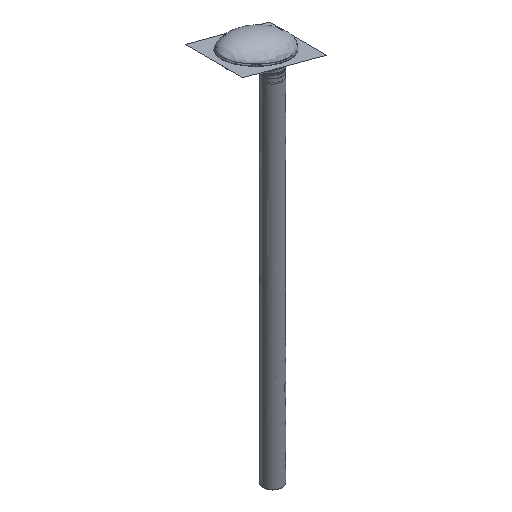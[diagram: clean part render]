
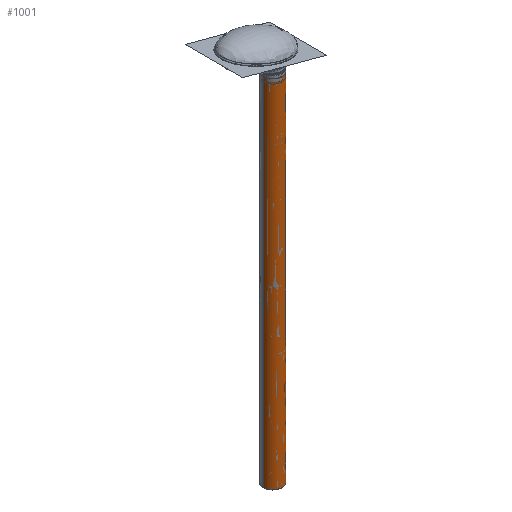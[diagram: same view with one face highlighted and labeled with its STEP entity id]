
A CAD part, isometric view. The second image highlights one B-rep face of the part: STEP entity #1001.
In plain terms, the highlighted free-form (B-spline) face has degree [2, 1] with [5, 2] control points.
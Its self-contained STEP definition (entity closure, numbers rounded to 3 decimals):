
#1001=ADVANCED_FACE('',(#2554),#23998,.T.);
#2554=FACE_OUTER_BOUND('',#4027,.T.);
#4027=EDGE_LOOP('',(#6626,#6627,#6628,#6629));
#6626=ORIENTED_EDGE('',*,*,#13489,.T.);
#6627=ORIENTED_EDGE('',*,*,#13486,.T.);
#6628=ORIENTED_EDGE('',*,*,#13490,.F.);
#6629=ORIENTED_EDGE('',*,*,#13488,.F.);
#13486=EDGE_CURVE('',#21965,#21966,#16644,.T.);
#13488=EDGE_CURVE('',#21967,#21968,#16646,.T.);
#13489=EDGE_CURVE('',#21967,#21965,#16647,.T.);
#13490=EDGE_CURVE('',#21968,#21966,#16648,.T.);
#16644=(
BOUNDED_CURVE()
B_SPLINE_CURVE(1,(#53636,#53637),.UNSPECIFIED.,.F.,.F.)
B_SPLINE_CURVE_WITH_KNOTS((2,2),(0.,2480.),.UNSPECIFIED.)
CURVE()
GEOMETRIC_REPRESENTATION_ITEM()
RATIONAL_B_SPLINE_CURVE((1.,1.))
REPRESENTATION_ITEM('')
);
#16646=(
BOUNDED_CURVE()
B_SPLINE_CURVE(1,(#53643,#53644),.UNSPECIFIED.,.F.,.F.)
B_SPLINE_CURVE_WITH_KNOTS((2,2),(0.,2480.),.UNSPECIFIED.)
CURVE()
GEOMETRIC_REPRESENTATION_ITEM()
RATIONAL_B_SPLINE_CURVE((1.,1.))
REPRESENTATION_ITEM('')
);
#16647=(
BOUNDED_CURVE()
B_SPLINE_CURVE(2,(#53645,#53646,#53647,#53648,#53649),.UNSPECIFIED.,.F.,
 .F.)
B_SPLINE_CURVE_WITH_KNOTS((3,2,3),(-102.102,0.,102.102),
 .UNSPECIFIED.)
CURVE()
GEOMETRIC_REPRESENTATION_ITEM()
RATIONAL_B_SPLINE_CURVE((1.,0.707,1.,0.707,1.))
REPRESENTATION_ITEM('')
);
#16648=(
BOUNDED_CURVE()
B_SPLINE_CURVE(2,(#53650,#53651,#53652,#53653,#53654),.UNSPECIFIED.,.F.,
 .F.)
B_SPLINE_CURVE_WITH_KNOTS((3,2,3),(-102.102,0.,102.102),
 .UNSPECIFIED.)
CURVE()
GEOMETRIC_REPRESENTATION_ITEM()
RATIONAL_B_SPLINE_CURVE((1.,0.707,1.,0.707,1.))
REPRESENTATION_ITEM('')
);
#21965=VERTEX_POINT('',#53627);
#21966=VERTEX_POINT('',#53628);
#21967=VERTEX_POINT('',#53629);
#21968=VERTEX_POINT('',#53630);
#23998=(
BOUNDED_SURFACE()
B_SPLINE_SURFACE(2,1,((#53617,#53618),(#53619,#53620),(#53621,#53622),(#53623,
#53624),(#53625,#53626)),.UNSPECIFIED.,.F.,.F.,.F.)
B_SPLINE_SURFACE_WITH_KNOTS((3,2,3),(2,2),(-102.102,0.,102.102),
(0.,2480.),.UNSPECIFIED.)
GEOMETRIC_REPRESENTATION_ITEM()
RATIONAL_B_SPLINE_SURFACE(((1.,1.),(0.707,0.707),
(1.,1.),(0.707,0.707),(1.,1.)))
REPRESENTATION_ITEM('')
SURFACE()
);
#53617=CARTESIAN_POINT('',(65.,0.,56.));
#53618=CARTESIAN_POINT('',(65.,0.,-2424.));
#53619=CARTESIAN_POINT('',(65.,-65.,56.));
#53620=CARTESIAN_POINT('',(65.,-65.,-2424.));
#53621=CARTESIAN_POINT('',(0.,-65.,56.));
#53622=CARTESIAN_POINT('',(0.,-65.,-2424.));
#53623=CARTESIAN_POINT('',(-65.,-65.,56.));
#53624=CARTESIAN_POINT('',(-65.,-65.,-2424.));
#53625=CARTESIAN_POINT('',(-65.,0.,56.));
#53626=CARTESIAN_POINT('',(-65.,0.,-2424.));
#53627=CARTESIAN_POINT('',(-65.,0.,56.));
#53628=CARTESIAN_POINT('',(-65.,0.,-2424.));
#53629=CARTESIAN_POINT('',(65.,0.,56.));
#53630=CARTESIAN_POINT('',(65.,0.,-2424.));
#53636=CARTESIAN_POINT('',(-65.,0.,56.));
#53637=CARTESIAN_POINT('',(-65.,0.,-2424.));
#53643=CARTESIAN_POINT('',(65.,0.,56.));
#53644=CARTESIAN_POINT('',(65.,0.,-2424.));
#53645=CARTESIAN_POINT('',(65.,0.,56.));
#53646=CARTESIAN_POINT('',(65.,-65.,56.));
#53647=CARTESIAN_POINT('',(0.,-65.,56.));
#53648=CARTESIAN_POINT('',(-65.,-65.,56.));
#53649=CARTESIAN_POINT('',(-65.,0.,56.));
#53650=CARTESIAN_POINT('',(65.,0.,-2424.));
#53651=CARTESIAN_POINT('',(65.,-65.,-2424.));
#53652=CARTESIAN_POINT('',(0.,-65.,-2424.));
#53653=CARTESIAN_POINT('',(-65.,-65.,-2424.));
#53654=CARTESIAN_POINT('',(-65.,0.,-2424.));
